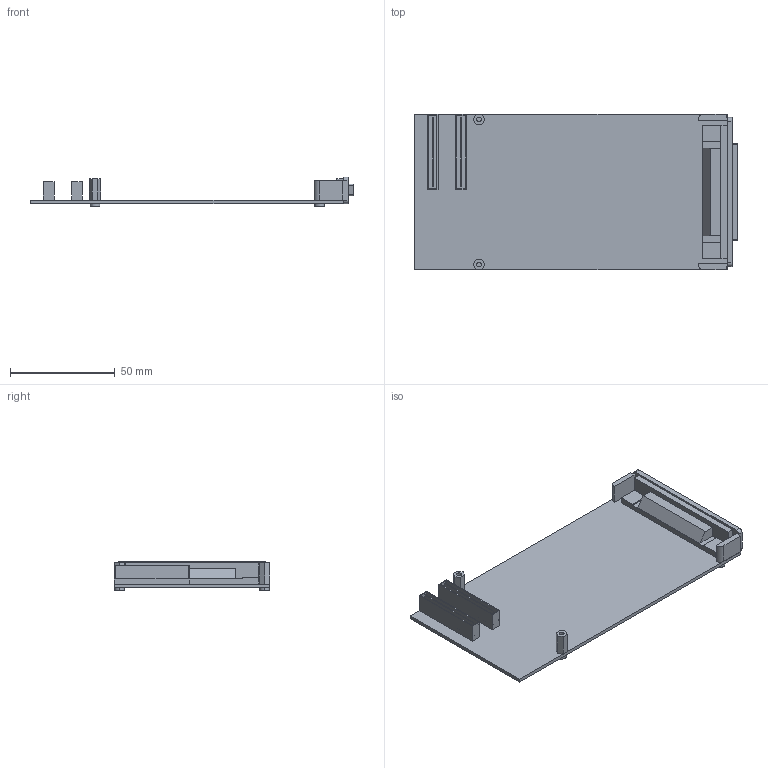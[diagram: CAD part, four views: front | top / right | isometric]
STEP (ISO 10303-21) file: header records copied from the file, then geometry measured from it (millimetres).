
FILE_DESCRIPTION (( 'STEP AP214' ), '1' );
FILE_NAME ('PMC66-SIO4BXR.STEP', '2022-06-20T22:46:42', ( '' ), ( '' ), 'SwSTEP 2.0', 'SolidWorks 2021', '' );
FILE_SCHEMA (( 'AUTOMOTIVE_DESIGN' ));
Length unit declared in the file: inch
Products named in the file (7): PM66_Screw; PCIE4_Plug2; 4_Standoff; PM66_Board; PMC66-SIO4BXR; PM66_PlugShroud; PM66_1717_Plug
Assembly tree (11 placements, depth 2):
  PMC66-SIO4BXR
    PM66_Board
    PM66_PlugShroud
    PM66_1717_Plug  x2
    4_Standoff  x2
    PM66_Screw  x4
    PCIE4_Plug2
Bounding box: 154.05 x 74.04 x 14.22 mm (x, y, z)
Volume: 28597.8 mm3; surface area: 33154.7 mm2
Topology: 11 solids, 11 shells, 127 faces, 297 edges, 196 vertices
Faces by surface type: plane 102, cylinder 25
Entity records: 3023 total; most frequent: CARTESIAN_POINT 466, DIRECTION 459, ORIENTED_EDGE 438, EDGE_CURVE 219, LINE 185, VECTOR 185, VERTEX_POINT 144, AXIS2_PLACEMENT_3D 137
